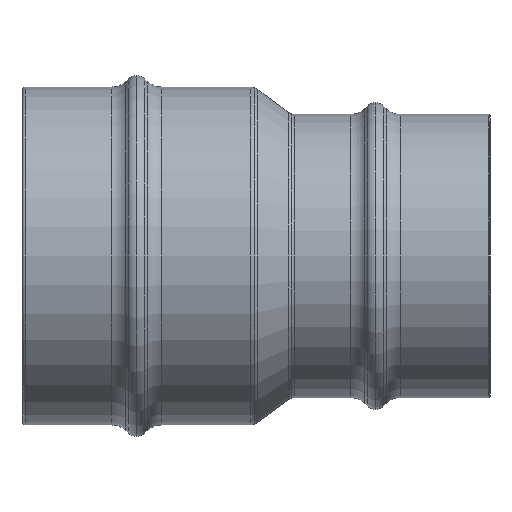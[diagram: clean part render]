
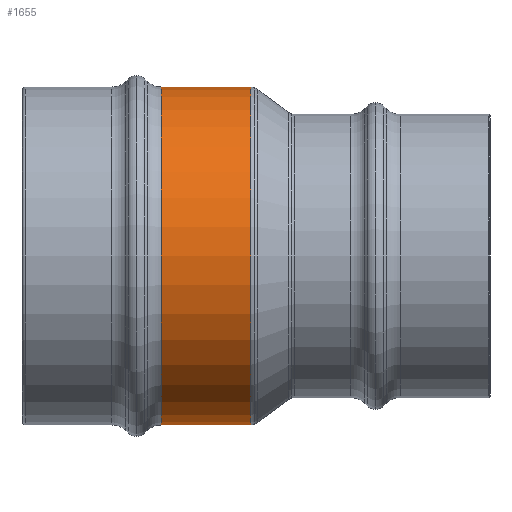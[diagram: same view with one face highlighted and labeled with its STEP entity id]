
A CAD part, front view. The second image highlights one B-rep face of the part: STEP entity #1655.
In plain terms, the highlighted cylindrical face has radius 51.442 mm (diameter 102.884 mm), a partial arc.
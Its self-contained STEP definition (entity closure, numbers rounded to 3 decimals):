
#471=CARTESIAN_POINT('',(69.661,0.,0.));
#472=DIRECTION('',(1.,0.,0.));
#473=DIRECTION('',(0.,0.,1.));
#474=AXIS2_PLACEMENT_3D('',#471,#472,#473);
#511=CARTESIAN_POINT('',(42.37,0.,0.));
#512=DIRECTION('',(1.,0.,0.));
#513=DIRECTION('',(0.,0.,1.));
#514=AXIS2_PLACEMENT_3D('',#511,#512,#513);
#565=DIRECTION('',(1.,0.,0.));
#566=VECTOR('',#565,27.292);
#567=CARTESIAN_POINT('',(42.37,0.,-51.442));
#568=LINE('',#567,#566);
#572=DIRECTION('',(-1.,0.,0.));
#573=VECTOR('',#572,27.292);
#574=CARTESIAN_POINT('',(69.661,0.,51.442));
#575=LINE('',#574,#573);
#1101=CARTESIAN_POINT('',(69.661,0.,-51.442));
#1102=VERTEX_POINT('',#1101);
#1103=CARTESIAN_POINT('',(69.661,0.,51.442));
#1104=VERTEX_POINT('',#1103);
#1181=CARTESIAN_POINT('',(42.37,0.,-51.442));
#1182=CARTESIAN_POINT('',(42.37,0.,51.442));
#1183=VERTEX_POINT('',#1181);
#1184=VERTEX_POINT('',#1182);
#1641=CARTESIAN_POINT('',(147.05,0.,0.));
#1642=DIRECTION('',(-1.,0.,0.));
#1643=DIRECTION('',(0.,0.,1.));
#1644=AXIS2_PLACEMENT_3D('',#1641,#1642,#1643);
#1645=CYLINDRICAL_SURFACE('',#1644,51.442);
#1647=ORIENTED_EDGE('',*,*,#1646,.F.);
#1649=ORIENTED_EDGE('',*,*,#1648,.F.);
#1650=ORIENTED_EDGE('',*,*,#1615,.T.);
#1652=ORIENTED_EDGE('',*,*,#1651,.F.);
#1653=EDGE_LOOP('',(#1647,#1649,#1650,#1652));
#1654=FACE_OUTER_BOUND('',#1653,.F.);
#475=CIRCLE('',#474,51.442);
#515=CIRCLE('',#514,51.442);
#1615=EDGE_CURVE('',#1104,#1102,#475,.T.);
#1646=EDGE_CURVE('',#1184,#1183,#515,.T.);
#1648=EDGE_CURVE('',#1104,#1184,#575,.T.);
#1651=EDGE_CURVE('',#1183,#1102,#568,.T.);
#1655=ADVANCED_FACE('',(#1654),#1645,.T.);
